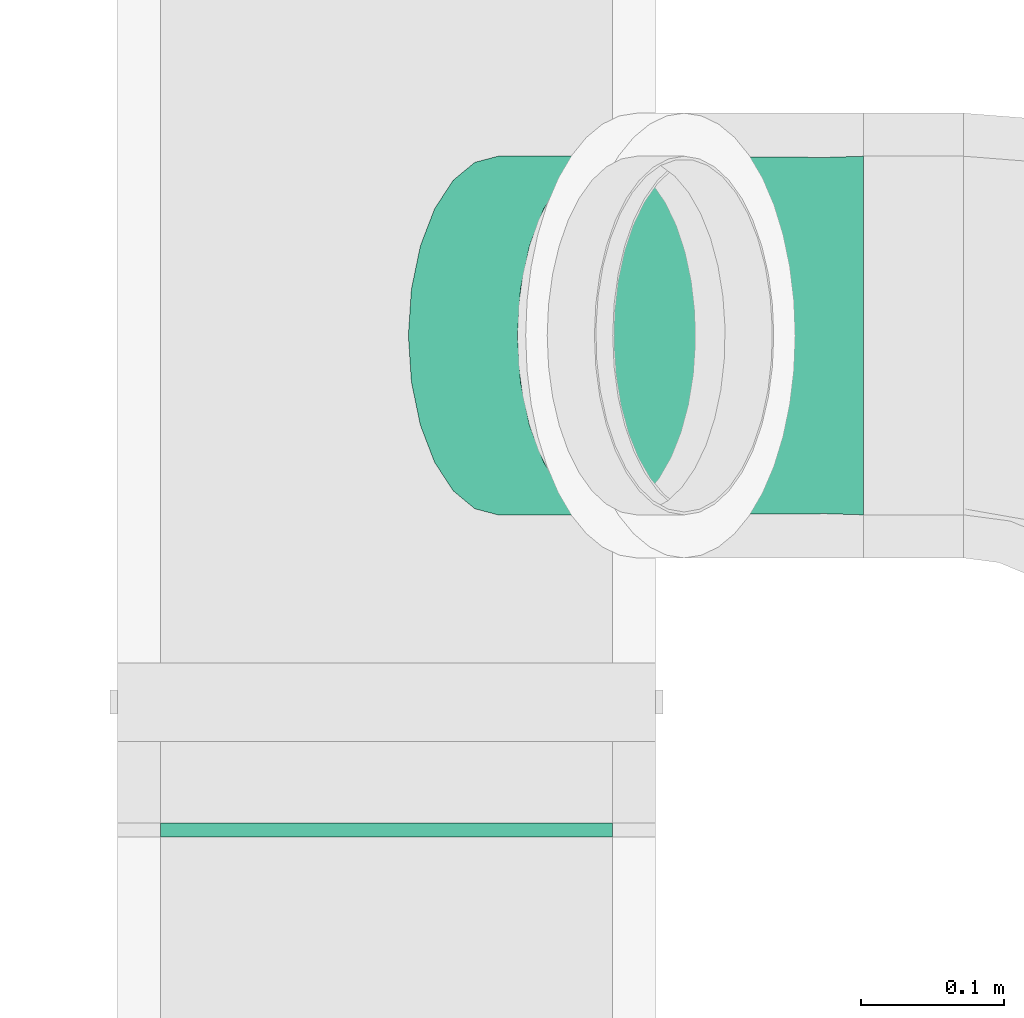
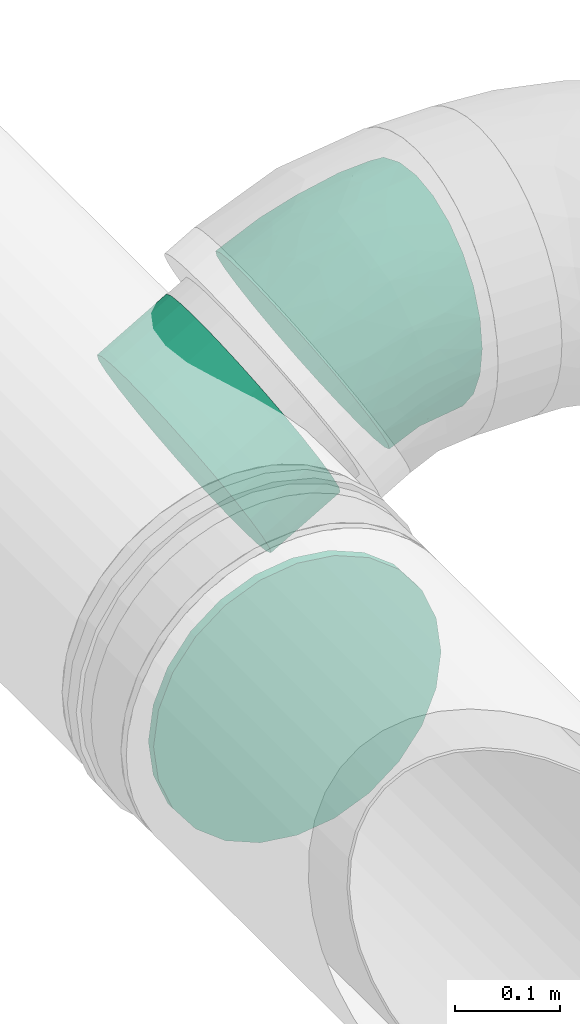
# One storey, part 15 of 21: 3 flow fittings.
"""IFC2X3 building model written with IfcOpenShell, lengths in millimetres."""

from ifc_helpers import new_model, entity, si_unit, converted_unit, derived_unit, direction, frame, origin_with_axes, place, context, subcontext, project, spatial, open_shell, surface_model, source, transform, mapped, type_object, element, save


model = new_model("IFC2X3")

# Units and contexts
model_context = context("Model", 3, precision=0.01, world=frame((0.0, 4.29681676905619e-09, 0.0)), true_north=direction((4.01073788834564e-13, 1.0)))
plan_context = context("Plan", 3, precision=0.01, world=frame((0.0, 4.29681676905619e-09, 0.0)), true_north=direction((4.01073788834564e-13, 1.0)))
body_context = subcontext(model_context, "Body", "Model", "MODEL_VIEW")
ifc_project = project(units=[converted_unit("PLANEANGLEUNIT", "DEGREE", entity("IfcPositiveLengthMeasure", 0.0174532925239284), si_unit("PLANEANGLEUNIT", "RADIAN"), dimensions=[0, 0, 0, 0, 0, 0, 0]), si_unit("AREAUNIT", "SQUARE_METRE"), si_unit("LENGTHUNIT", "METRE", prefix="MILLI"), si_unit("MASSUNIT", "GRAM", prefix="KILO"), si_unit("POWERUNIT", "WATT"), si_unit("PRESSUREUNIT", "PASCAL"), si_unit("FORCEUNIT", "NEWTON", prefix="KILO"), si_unit("ELECTRICVOLTAGEUNIT", "VOLT"), si_unit("ELECTRICCURRENTUNIT", "AMPERE"), si_unit("THERMODYNAMICTEMPERATUREUNIT", "DEGREE_CELSIUS"), si_unit("TIMEUNIT", "SECOND"), si_unit("VOLUMEUNIT", "CUBIC_METRE"), derived_unit("LINEARVELOCITYUNIT", [(si_unit("LENGTHUNIT", "METRE"), 1), (si_unit("TIMEUNIT", "SECOND"), -1)]), derived_unit("VOLUMETRICFLOWRATEUNIT", [(si_unit("VOLUMEUNIT", "CUBIC_METRE"), 1), (si_unit("TIMEUNIT", "SECOND"), -1)]), derived_unit("THERMALTRANSMITTANCEUNIT", [(si_unit("POWERUNIT", "WATT"), 1), (si_unit("THERMODYNAMICTEMPERATUREUNIT", "KELVIN"), -1), (si_unit("AREAUNIT", "SQUARE_METRE"), -1)]), derived_unit("SOUNDPRESSUREUNIT", [(si_unit("PRESSUREUNIT", "PASCAL"), 1)])], contexts=[model_context, plan_context])

# Site, building, storey
site_placement = place(None, frame((0.0, -4.29681676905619e-09, 0.0), z_axis=(0.0, 0.0, 1.0), x_axis=(1.0, 0.0, 0.0)))
site = spatial("IfcSite", under=ifc_project, at=site_placement, Name="ENGM", CompositionType="ELEMENT")
building_placement = place(site_placement, frame((0.0, 4.29681676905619e-09, 0.0), z_axis=(0.0, 0.0, 1.0), x_axis=(1.0, 0.0, 0.0)))
building = spatial("IfcBuilding", under=site, at=building_placement, Name="TI", CompositionType="ELEMENT")
storey_placement = place(building_placement, frame((0.0, 0.0, 210900.0), z_axis=(0.0, 0.0, 1.0), x_axis=(1.0, 0.0, 0.0)))
storey = spatial("IfcBuildingStorey", under=building, at=storey_placement, Name="Nivå F", CompositionType="ELEMENT", Elevation=210900.0)

# Flow fittings
duct_fitting_type_1 = type_object("IfcDuctFittingType", Name="magicirc_elbow_full_radius_001", PredefinedType="BEND")
shared_shape_1 = source(origin_with_axes(), body_context, "Body", "SurfaceModel", [
    surface_model("IfcShellBasedSurfaceModel", [(13.81853, 110.0402, -88.38835), (41.83651, 61.51163, -120.74073), (26.7627, 87.62023, -108.25318), (-31.85796, -48.03233, 114.52264), (-13.67198, -74.62338, 96.89352), (11.40538, -42.56547, 113.26105), (-19.81421, -15.54023, 123.43822), (-5.29627, 19.76594, 124.45647), (-40.67459, 15.80942, 124.17521), (26.7627, 87.62023, 108.25318), (13.81853, 110.0402, 88.38835), (-21.17057, 79.00964, 101.4852), (28.3766, -1.98516, 123.48117), (-24.69912, -98.35294, 73.77062), (24.34933, -90.87293, 70.97238), (3.88611, 127.24365, 62.5), (-2.35766, 138.05819, 32.35238), (-31.85959, 118.90162, 50.65349), (-24.78516, 103.10992, 78.63486), (-34.63492, 129.25927, 0.0), (-33.4328, 126.77673, 25.88802), (-4.4873, 141.74683, 0.0), (51.60597, -25.66825, 114.52264), (27.32052, 34.02865, 124.17521), (8.66503, 60.17207, 116.36517), (41.83651, 61.51163, 120.74073), (-1.32386, 55.62377, -116.68363), (-2.35766, 138.05819, -32.35238), (3.88611, 127.24365, -62.5), (-31.85959, 118.90162, -50.65348), (27.32052, 34.02865, -124.17521), (-24.69912, -98.35294, -73.77062), (-13.67198, -74.62338, -96.89352), (24.34933, -90.87294, -70.97237), (11.40538, -42.56548, -113.26105), (-31.85795, -48.03234, -114.52264), (-23.58227, -15.9075, -123.48117), (-5.29627, 19.76594, -124.45647), (-40.67459, 15.80941, -124.17521), (-37.59018, 47.77802, -116.36517), (24.92973, -3.55113, -123.43822), (-21.17058, 79.00964, -101.4852), (-10.52673, -112.57244, -44.15342), (51.60597, -25.66825, -114.52264), (27.61966, -103.07798, -47.7187), (-66.98731, 32.35238, -120.74073), (-66.98731, 0.0, -125.0), (-66.98731, 88.38835, -88.38835), (-66.98731, 62.5, -108.25318), (-66.98731, 120.74073, -32.35238), (-66.98731, 108.25318, -62.5), (-66.98731, -32.35238, -120.74073), (-66.98731, -62.5, -108.25318), (-66.98731, -88.38835, -88.38835), (-66.98731, -108.25318, -62.5), (-66.98731, -120.74073, -32.35238), (-66.98731, -125.0, 0.0), (-66.98731, 125.0, 0.0), (-66.98731, -62.5, 108.25318), (-66.98731, 120.74073, 32.35238), (-66.98731, 108.25318, 62.5), (-66.98731, 32.35238, 120.74073), (-66.98731, 62.5, 108.25318), (-66.98731, 88.38835, 88.38835), (-66.98731, -108.25318, 62.5), (-66.98731, -88.38835, 88.38835), (-66.98731, -120.74073, 32.35238), (-66.98731, -32.35238, 120.74073), (-66.98731, 0.0, 125.0), (102.20689, -43.05289, -88.38835), (58.01271, 33.49366, -125.0), (102.20689, -43.05289, 88.38835), (74.1889, 5.47568, -120.74073), (89.26271, -20.63292, -108.25318), (112.1393, -60.25633, -62.5), (120.51272, -74.75951, 0.0), (118.38308, -71.07087, -32.35238), (118.38308, -71.07087, 32.35238), (89.26271, -20.63292, 108.25318), (112.1393, -60.25633, 62.5), (58.01271, 33.49366, 125.0), (74.1889, 5.47568, 120.74073), (-10.52674, -112.57243, 44.15342), (-1.86923, -119.30291, 0.0), (-20.91676, -120.23002, 21.79378), (-35.89572, -122.27984, 0.0), (70.56654, -72.82659, 73.77062), (25.12037, -111.15876, 23.77057), (27.61966, -103.07798, 47.7187), (-26.66541, 48.83353, 116.68363), (49.15198, -57.78975, 96.89352), (65.40264, -92.22722, 44.15342), (78.22948, -93.66385, 21.79379), (92.22653, -87.94957, 0.0), (29.70051, -110.84382, 0.0), (61.27026, -102.38473, 0.0), (65.40265, -92.22722, -44.15342), (-30.0904, 101.68839, -78.63486), (49.15199, -57.78975, -96.89352), (-34.43472, 126.50827, -25.88802), (25.12037, -111.15876, -23.77056), (-20.91676, -120.23002, -21.79378), (70.56654, -72.82659, -73.77062), (78.22947, -93.66386, -21.79378)], [open_shell([[[0, 1, 2]], [[3, 4, 5]], [[6, 7, 8]], [[9, 10, 11]], [[12, 7, 6]], [[4, 13, 14]], [[15, 16, 17]], [[17, 18, 15]], [[19, 20, 21]], [[5, 22, 12]], [[16, 20, 17]], [[10, 15, 18]], [[18, 11, 10]], [[7, 23, 24]], [[25, 9, 24]], [[5, 12, 6]], [[6, 3, 5]], [[11, 24, 9]], [[21, 20, 16]], [[24, 23, 25]], [[12, 23, 7]], [[2, 1, 26]], [[27, 28, 29]], [[30, 26, 1]], [[31, 32, 33]], [[34, 35, 36]], [[37, 38, 39]], [[34, 36, 40]], [[41, 0, 2]], [[37, 40, 36]], [[2, 26, 41]], [[26, 39, 41]], [[37, 30, 40]], [[42, 31, 33]], [[32, 35, 34]], [[40, 43, 34]], [[37, 39, 26]], [[42, 33, 44]], [[36, 38, 37]], [[26, 30, 37]], [[45, 46, 47]], [[48, 45, 47]], [[49, 50, 47]], [[51, 47, 46]], [[49, 47, 51]], [[52, 53, 51]], [[53, 49, 51]], [[54, 55, 53]], [[56, 53, 55]], [[53, 56, 49]], [[56, 57, 49]], [[57, 58, 59]], [[60, 59, 61]], [[61, 62, 63]], [[60, 61, 63]], [[61, 59, 58]], [[64, 65, 66]], [[66, 65, 56]], [[67, 68, 58]], [[65, 58, 56]], [[58, 68, 61]], [[58, 57, 56]], [[1, 69, 70]], [[69, 0, 28]], [[1, 0, 69]], [[28, 71, 69]], [[72, 69, 73]], [[72, 70, 69]], [[74, 75, 76]], [[71, 74, 69]], [[77, 75, 74]], [[71, 28, 27]], [[16, 71, 21]], [[15, 78, 16]], [[10, 9, 25]], [[15, 10, 78]], [[10, 25, 78]], [[71, 79, 74]], [[77, 74, 79]], [[78, 80, 81]], [[16, 78, 71]], [[25, 80, 78]], [[27, 21, 71]], [[66, 82, 64]], [[83, 84, 85]], [[14, 13, 82]], [[79, 71, 86]], [[13, 65, 64]], [[87, 88, 82]], [[67, 58, 3]], [[78, 81, 22]], [[66, 85, 84]], [[82, 84, 87]], [[8, 61, 68]], [[62, 89, 11]], [[62, 61, 89]], [[90, 4, 14]], [[11, 63, 62]], [[86, 90, 14]], [[18, 63, 11]], [[59, 60, 17]], [[4, 90, 5]], [[20, 57, 59]], [[13, 4, 65]], [[87, 91, 88]], [[77, 92, 93]], [[71, 78, 90]], [[18, 17, 60]], [[12, 81, 80]], [[80, 25, 23]], [[92, 77, 91]], [[82, 13, 64]], [[90, 78, 22]], [[79, 86, 91]], [[58, 65, 4]], [[59, 17, 20]], [[68, 67, 6]], [[12, 80, 23]], [[8, 89, 61]], [[24, 11, 89]], [[63, 18, 60]], [[91, 77, 79]], [[90, 86, 71]], [[3, 6, 67]], [[91, 86, 14]], [[4, 3, 58]], [[12, 22, 81]], [[90, 22, 5]], [[7, 24, 89]], [[20, 19, 57]], [[66, 56, 85]], [[87, 84, 83]], [[66, 84, 82]], [[87, 83, 94]], [[87, 95, 92]], [[91, 14, 88]], [[14, 82, 88]], [[93, 92, 95]], [[93, 75, 77]], [[87, 92, 91]], [[6, 8, 68]], [[89, 8, 7]], [[95, 87, 94]], [[74, 76, 96]], [[70, 72, 40]], [[38, 46, 45]], [[46, 36, 51]], [[47, 97, 41]], [[47, 41, 48]], [[73, 69, 98]], [[29, 49, 99]], [[100, 83, 101]], [[55, 101, 85]], [[45, 48, 39]], [[101, 55, 42]], [[31, 42, 54]], [[53, 52, 32]], [[32, 98, 33]], [[55, 54, 42]], [[53, 31, 54]], [[35, 52, 51]], [[57, 19, 99]], [[96, 102, 74]], [[21, 27, 99]], [[50, 97, 47]], [[29, 50, 49]], [[35, 32, 52]], [[0, 41, 97]], [[76, 93, 103]], [[30, 1, 70]], [[43, 72, 73]], [[100, 44, 96]], [[74, 102, 69]], [[34, 43, 98]], [[102, 98, 69]], [[33, 102, 96]], [[43, 40, 72]], [[103, 93, 95]], [[36, 46, 38]], [[0, 97, 28]], [[100, 96, 103]], [[98, 32, 34]], [[29, 97, 50]], [[32, 31, 53]], [[27, 29, 99]], [[97, 29, 28]], [[98, 102, 33]], [[36, 35, 51]], [[98, 43, 73]], [[41, 39, 48]], [[57, 99, 49]], [[99, 19, 21]], [[85, 101, 83]], [[85, 56, 55]], [[100, 101, 42]], [[100, 42, 44]], [[100, 95, 94]], [[33, 96, 44]], [[76, 75, 93]], [[100, 103, 95]], [[76, 103, 96]], [[39, 38, 45]], [[40, 30, 70]], [[94, 83, 100]]])]),
])
flow_fitting_1_placement = place(storey_placement, frame((607585.18804, 693525.29135, 2600.0), z_axis=(0.0, 1.0, 0.0), x_axis=(0.866025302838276, 0.0, 0.500000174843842)))
element("IfcFlowFitting", 1, at=flow_fitting_1_placement, inside=storey, type_object=duct_fitting_type_1, Name="magicirc_elbow_full_radius_001", context=body_context, shape_type="MappedRepresentation", body=[
    mapped(shared_shape_1, transform((0.0, 0.0, 0.0), scale=1.0)),
])
duct_fitting_type_2 = type_object("IfcDuctFittingType", Name="magicirc_tapoutlet_001", PredefinedType="CONNECTOR")
shared_shape_2 = source(origin_with_axes(), body_context, "Body", "SurfaceModel", [
    surface_model("IfcShellBasedSurfaceModel", [(20.0, -88.38835, -88.38835), (20.0, -120.74073, 32.35238), (20.0, -108.25318, -62.5), (20.0, 88.38835, -88.38835), (20.0, 125.0, 0.0), (20.0, 62.5, -108.25318), (20.0, 120.74073, -32.35238), (20.0, 108.25318, -62.5), (0.0, 0.0, -125.0), (20.0, 0.0, -125.0), (20.0, -32.35238, -120.74073), (0.0, -32.35238, -120.74073), (20.0, -62.5, -108.25318), (0.0, -62.5, -108.25318), (20.0, 32.35238, -120.74073), (0.0, 32.35238, -120.74073), (0.0, 62.5, -108.25318), (20.0, -120.74073, -32.35238), (20.0, -125.0, 0.0), (20.0, 120.74073, 32.35238), (20.0, 108.25318, 62.5), (20.0, 62.5, 108.25318), (20.0, 32.35238, 120.74073), (20.0, 88.38835, 88.38835), (20.0, -62.5, 108.25318), (20.0, -108.25318, 62.5), (20.0, -88.38835, 88.38835), (20.0, -32.35238, 120.74073), (20.0, 0.0, 125.0), (0.0, 0.0, 125.0), (0.0, 32.35238, 120.74073), (0.0, 62.5, 108.25318), (0.0, 88.38835, 88.38835), (0.0, 108.25318, 62.5), (0.0, 120.74073, 32.35238), (0.0, 125.0, 0.0), (0.0, 120.74073, -32.35238), (0.0, 108.25318, -62.5), (0.0, 88.38835, -88.38835), (0.0, -88.38835, -88.38835), (0.0, -108.25318, -62.5), (0.0, -120.74073, -32.35238), (0.0, -125.0, 0.0), (0.0, -120.74073, 32.35238), (0.0, -108.25318, 62.5), (0.0, -88.38835, 88.38835), (0.0, -62.5, 108.25318), (0.0, -32.35238, 120.74073), (-67.78374, 0.0, -125.0), (-67.78374, -32.35238, -120.74073), (-67.78374, 32.35238, -120.74073), (-67.78374, 120.74073, 32.35238), (-67.78374, 62.5, -108.25318), (-67.78374, 88.38835, -88.38835), (-67.78374, 108.25318, -62.5), (-67.78374, -125.0, 0.0), (-67.78374, -120.74073, 32.35238), (-67.78374, -88.38835, -88.38835), (-67.78374, -62.5, -108.25318), (-67.78374, -120.74073, -32.35238), (-67.78374, -108.25318, -62.5), (-67.78374, 120.74073, -32.35238), (-67.78374, 108.25318, 62.5), (-67.78374, 62.5, 108.25318), (-67.78374, 32.35238, 120.74073), (-67.78374, 88.38835, 88.38835), (-67.78374, 0.0, 125.0), (-67.78374, -108.25318, 62.5), (-67.78374, -88.38835, 88.38835), (-67.78374, -32.35238, 120.74073), (-67.78374, -62.5, 108.25318), (-67.78374, 125.0, 0.0)], [open_shell([[[0, 1, 2]], [[3, 4, 5]], [[6, 4, 7]], [[3, 7, 4]], [[8, 9, 10]], [[11, 10, 12]], [[13, 11, 12]], [[14, 9, 8]], [[5, 14, 15]], [[5, 15, 16]], [[14, 4, 9]], [[5, 4, 14]], [[0, 9, 1]], [[9, 12, 10]], [[9, 0, 12]], [[2, 1, 17]], [[2, 0, 1]], [[1, 18, 17]], [[4, 7, 6]], [[19, 20, 9]], [[9, 20, 21]], [[22, 9, 21]], [[21, 20, 23]], [[9, 22, 24]], [[9, 25, 1]], [[26, 25, 9]], [[26, 9, 24]], [[22, 27, 24]], [[22, 28, 27]], [[4, 19, 9]], [[29, 28, 22]], [[30, 22, 21]], [[29, 22, 30]], [[31, 23, 32]], [[31, 30, 21]], [[23, 31, 21]], [[33, 20, 19]], [[34, 19, 4]], [[32, 20, 33]], [[34, 33, 19]], [[35, 34, 4]], [[20, 32, 23]], [[35, 4, 6]], [[36, 6, 7]], [[35, 6, 36]], [[37, 3, 38]], [[37, 36, 7]], [[3, 37, 7]], [[38, 5, 16]], [[8, 15, 14]], [[5, 38, 3]], [[8, 10, 11]], [[13, 0, 39]], [[0, 13, 12]], [[40, 2, 17]], [[41, 17, 18]], [[39, 2, 40]], [[41, 40, 17]], [[42, 41, 18]], [[2, 39, 0]], [[42, 18, 1]], [[43, 1, 25]], [[42, 1, 43]], [[44, 26, 45]], [[44, 43, 25]], [[26, 44, 25]], [[46, 24, 27]], [[47, 27, 28]], [[45, 24, 46]], [[47, 46, 27]], [[29, 47, 28]], [[24, 45, 26]], [[7, 4, 3]], [[12, 10, 9]], [[20, 9, 19]], [[20, 23, 9]], [[9, 23, 21]], [[9, 24, 26]], [[28, 27, 22]], [[9, 4, 19]], [[48, 49, 50]], [[50, 51, 52]], [[53, 51, 54]], [[52, 51, 53]], [[50, 55, 56]], [[57, 55, 58]], [[50, 49, 58]], [[59, 55, 60]], [[57, 60, 55]], [[58, 55, 50]], [[61, 54, 51]], [[62, 51, 50]], [[63, 62, 50]], [[63, 50, 64]], [[65, 62, 63]], [[66, 64, 50]], [[56, 67, 50]], [[67, 68, 50]], [[69, 66, 70]], [[68, 70, 66]], [[50, 68, 66]], [[71, 61, 51]], [[66, 29, 30]], [[64, 30, 31]], [[66, 30, 64]], [[65, 31, 32]], [[63, 64, 31]], [[31, 65, 63]], [[51, 33, 34]], [[71, 34, 35]], [[65, 33, 62]], [[62, 33, 51]], [[34, 71, 51]], [[33, 65, 32]], [[71, 35, 36]], [[61, 36, 37]], [[71, 36, 61]], [[53, 37, 38]], [[54, 61, 37]], [[37, 53, 54]], [[50, 16, 15]], [[48, 15, 8]], [[53, 16, 52]], [[52, 16, 50]], [[15, 48, 50]], [[16, 53, 38]], [[48, 8, 11]], [[49, 11, 13]], [[48, 11, 49]], [[57, 13, 39]], [[58, 49, 13]], [[13, 57, 58]], [[59, 40, 41]], [[55, 41, 42]], [[57, 40, 60]], [[60, 40, 59]], [[41, 55, 59]], [[40, 57, 39]], [[55, 42, 43]], [[56, 43, 44]], [[55, 43, 56]], [[68, 44, 45]], [[67, 56, 44]], [[44, 68, 67]], [[69, 46, 47]], [[66, 47, 29]], [[68, 46, 70]], [[70, 46, 69]], [[47, 66, 69]], [[46, 68, 45]], [[50, 65, 62]], [[63, 65, 50]], [[50, 68, 70]], [[66, 50, 70]]])]),
])
flow_fitting_2_placement = place(storey_placement, frame((607456.19317, 693525.29135, 2525.52478000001), z_axis=(-0.500000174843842, 0.0, 0.866025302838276), x_axis=(0.866025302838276, 0.0, 0.500000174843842)))
element("IfcFlowFitting", 2, at=flow_fitting_2_placement, inside=storey, type_object=duct_fitting_type_2, Name="magicirc_tapoutlet_001", context=body_context, shape_type="MappedRepresentation", body=[
    mapped(shared_shape_2, transform((0.0, 0.0, 0.0), scale=1.0)),
])
duct_fitting_type_3 = type_object("IfcDuctFittingType", Name="magicirc_joint_001", PredefinedType="CONNECTOR")
shared_shape_3 = source(origin_with_axes(), body_context, "Body", "SurfaceModel", [
    surface_model("IfcShellBasedSurfaceModel", [(0.0, 40.764, -152.13332), (0.0, 0.0, -157.5), (0.0, 152.13332, -40.764), (0.0, 78.75, -136.39901), (0.0, 136.39901, -78.75), (0.0, 111.36932, -111.36932), (0.0, -157.5, 0.0), (0.0, -78.75, -136.39901), (0.0, -111.36932, -111.36932), (0.0, -40.764, -152.13332), (0.0, -152.13332, -40.764), (0.0, -136.39901, -78.75), (0.0, -111.36932, 111.36932), (0.0, 136.39901, 78.75), (0.0, 152.13332, 40.764), (0.0, 157.5, 0.0), (0.0, 40.764, 152.13332), (0.0, 78.75, 136.39901), (0.0, 111.36932, 111.36932), (0.0, 0.0, 157.5), (0.0, -152.13332, 40.764), (0.0, -136.39901, 78.75), (0.0, -78.75, 136.39901), (0.0, -40.764, 152.13332), (10.0, 152.13332, -40.764), (10.0, 0.0, -157.5), (10.0, 40.764, -152.13332), (10.0, 78.75, -136.39901), (10.0, 111.36932, -111.36932), (10.0, 136.39901, -78.75), (10.0, -40.764, -152.13332), (10.0, -111.36932, -111.36932), (10.0, -78.75, -136.39901), (10.0, -152.13332, -40.764), (10.0, -136.39901, -78.75), (10.0, -157.5, 0.0), (10.0, 136.39901, 78.75), (10.0, 157.5, 0.0), (10.0, 152.13332, 40.764), (10.0, -111.36932, 111.36932), (10.0, 78.75, 136.39901), (10.0, 40.764, 152.13332), (10.0, 111.36932, 111.36932), (10.0, 0.0, 157.5), (10.0, -136.39901, 78.75), (10.0, -152.13332, 40.764), (10.0, -40.764, 152.13332), (10.0, -78.75, 136.39901)], [open_shell([[[0, 1, 2]], [[3, 0, 2]], [[2, 4, 5]], [[3, 2, 5]], [[6, 2, 1]], [[7, 8, 9]], [[10, 9, 8]], [[11, 10, 8]], [[6, 9, 10]], [[6, 1, 9]], [[6, 12, 2]], [[13, 14, 15]], [[12, 13, 2]], [[13, 16, 17]], [[18, 13, 17]], [[16, 13, 19]], [[20, 21, 6]], [[6, 21, 12]], [[22, 23, 12]], [[23, 13, 12]], [[13, 23, 19]], [[13, 15, 2]], [[24, 25, 26]], [[24, 26, 27]], [[28, 29, 24]], [[28, 24, 27]], [[25, 24, 30]], [[30, 31, 32]], [[31, 30, 33]], [[31, 33, 34]], [[33, 30, 35]], [[30, 24, 35]], [[24, 36, 35]], [[37, 38, 36]], [[36, 39, 35]], [[40, 41, 36]], [[40, 36, 42]], [[43, 36, 41]], [[35, 44, 45]], [[39, 44, 35]], [[39, 46, 47]], [[39, 36, 46]], [[43, 46, 36]], [[36, 24, 37]], [[45, 6, 35]], [[44, 20, 45]], [[12, 39, 47]], [[44, 39, 21]], [[22, 47, 46]], [[44, 21, 20]], [[20, 6, 45]], [[23, 43, 19]], [[23, 22, 46]], [[12, 47, 22]], [[12, 21, 39]], [[43, 23, 46]], [[40, 16, 41]], [[42, 17, 40]], [[13, 36, 38]], [[42, 36, 18]], [[14, 38, 37]], [[40, 17, 16]], [[16, 19, 41]], [[14, 13, 38]], [[18, 36, 13]], [[18, 17, 42]], [[15, 14, 37]], [[41, 19, 43]], [[24, 15, 37]], [[29, 2, 24]], [[5, 28, 27]], [[29, 28, 4]], [[3, 27, 26]], [[29, 4, 2]], [[2, 15, 24]], [[0, 25, 1]], [[0, 3, 26]], [[5, 27, 3]], [[5, 4, 28]], [[25, 0, 26]], [[32, 31, 7]], [[30, 32, 9]], [[10, 34, 33]], [[34, 11, 31]], [[6, 33, 35]], [[30, 9, 1]], [[9, 32, 7]], [[8, 31, 11]], [[8, 7, 31]], [[11, 34, 10]], [[33, 6, 10]], [[30, 1, 25]]])]),
])
flow_fitting_3_placement = place(storey_placement, frame((607319.79165, 693185.62344, 2446.77914), z_axis=(0.0, 0.0, 1.0), x_axis=(0.0, -1.0, 0.0)))
element("IfcFlowFitting", 3, at=flow_fitting_3_placement, inside=storey, type_object=duct_fitting_type_3, Name="magicirc_joint_001", context=body_context, shape_type="MappedRepresentation", body=[
    mapped(shared_shape_3, transform((0.0, 0.0, 0.0), scale=1.0)),
])

save(model, "model.ifc")
